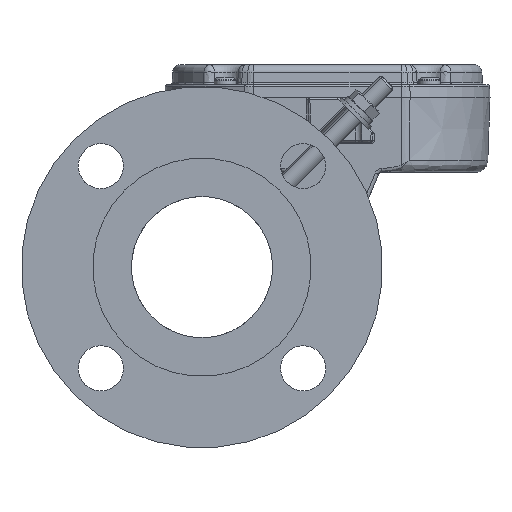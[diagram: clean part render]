
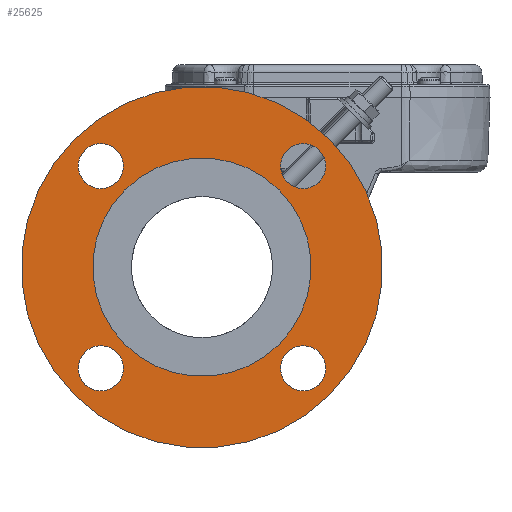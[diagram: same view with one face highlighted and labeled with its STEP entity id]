
A CAD part, front view. The second image highlights one B-rep face of the part: STEP entity #25625.
In plain terms, the highlighted planar face has unit normal (0, -1, 0) as drawn and (-1, 0, 0) by its records, which use the part's own axes.
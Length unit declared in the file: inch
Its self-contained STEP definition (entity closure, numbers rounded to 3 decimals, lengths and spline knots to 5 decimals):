
#807 = DIRECTION ( 'NONE',  ( 0., 0., -1. ) ) ;
#1751 = CARTESIAN_POINT ( 'NONE',  ( 0., -2.375, 0. ) ) ;
#1897 = DIRECTION ( 'NONE',  ( 1., 0., 0. ) ) ;
#2315 = DIRECTION ( 'NONE',  ( 0., 0., -1. ) ) ;
#2569 = DIRECTION ( 'NONE',  ( 0., 0., -1. ) ) ;
#2586 = CARTESIAN_POINT ( 'NONE',  ( 0., 0., -1.8125 ) ) ;
#2778 = CARTESIAN_POINT ( 'NONE',  ( 0., 0., -2. ) ) ;
#2925 = EDGE_CURVE ( 'NONE', #9064, #21138, #23308, .T. ) ;
#3398 = DIRECTION ( 'NONE',  ( 1., 0., 0. ) ) ;
#3523 = EDGE_LOOP ( 'NONE', ( #28972, #30227 ) ) ;
#3618 = EDGE_LOOP ( 'NONE', ( #5724, #18375 ) ) ;
#3978 = VERTEX_POINT ( 'NONE', #27315 ) ;
#4473 = EDGE_CURVE ( 'NONE', #24400, #25697, #11940, .T. ) ;
#4577 = CIRCLE ( 'NONE', #28630, 0.375 ) ;
#5023 = VERTEX_POINT ( 'NONE', #28074 ) ;
#5358 = EDGE_CURVE ( 'NONE', #5023, #22924, #34259, .T. ) ;
#5476 = CIRCLE ( 'NONE', #32348, 0.375 ) ;
#5701 = PLANE ( 'NONE',  #33697 ) ;
#5724 = ORIENTED_EDGE ( 'NONE', *, *, #28757, .T. ) ;
#5728 = AXIS2_PLACEMENT_3D ( 'NONE', #31315, #25427, #11779 ) ;
#5884 = FACE_BOUND ( 'NONE', #3523, .T. ) ;
#5886 = EDGE_LOOP ( 'NONE', ( #27538, #23426 ) ) ;
#6059 = FACE_BOUND ( 'NONE', #28185, .T. ) ;
#6239 = CARTESIAN_POINT ( 'NONE',  ( 0., 2.375, 0.375 ) ) ;
#7168 = DIRECTION ( 'NONE',  ( 1., 0., 0. ) ) ;
#7817 = DIRECTION ( 'NONE',  ( 0., 0., -1. ) ) ;
#8183 = ORIENTED_EDGE ( 'NONE', *, *, #15241, .T. ) ;
#8236 = EDGE_CURVE ( 'NONE', #29658, #3978, #28685, .T. ) ;
#8279 = DIRECTION ( 'NONE',  ( 1., 0., 0. ) ) ;
#8289 = DIRECTION ( 'NONE',  ( 0., 0., -1. ) ) ;
#8448 = EDGE_CURVE ( 'NONE', #21138, #9064, #25855, .T. ) ;
#8459 = DIRECTION ( 'NONE',  ( 1., 0., 0. ) ) ;
#8533 = VERTEX_POINT ( 'NONE', #27996 ) ;
#8570 = CARTESIAN_POINT ( 'NONE',  ( 0., 0., 0. ) ) ;
#9064 = VERTEX_POINT ( 'NONE', #2586 ) ;
#9241 = AXIS2_PLACEMENT_3D ( 'NONE', #18638, #15929, #2315 ) ;
#9395 = DIRECTION ( 'NONE',  ( 0., 0., -1. ) ) ;
#9816 = CARTESIAN_POINT ( 'NONE',  ( 0., 0., -2.75 ) ) ;
#10216 = AXIS2_PLACEMENT_3D ( 'NONE', #23194, #28031, #9395 ) ;
#10665 = CARTESIAN_POINT ( 'NONE',  ( 0., 0., 1.8125 ) ) ;
#10777 = AXIS2_PLACEMENT_3D ( 'NONE', #25437, #8279, #16159 ) ;
#10797 = DIRECTION ( 'NONE',  ( 0., 0., 1. ) ) ;
#11360 = EDGE_CURVE ( 'NONE', #15063, #8533, #4577, .T. ) ;
#11461 = CARTESIAN_POINT ( 'NONE',  ( 0., 0., 0. ) ) ;
#11779 = DIRECTION ( 'NONE',  ( 0., 0., -1. ) ) ;
#11940 = CIRCLE ( 'NONE', #10777, 0.375 ) ;
#12692 = DIRECTION ( 'NONE',  ( 1., 0., 0. ) ) ;
#13670 = DIRECTION ( 'NONE',  ( 1., 0., 0. ) ) ;
#14112 = FACE_OUTER_BOUND ( 'NONE', #30142, .T. ) ;
#14245 = DIRECTION ( 'NONE',  ( 1., 0., 0. ) ) ;
#14429 = CARTESIAN_POINT ( 'NONE',  ( 0., 0., 0. ) ) ;
#14479 = CIRCLE ( 'NONE', #29922, 0.375 ) ;
#14641 = EDGE_CURVE ( 'NONE', #8533, #15063, #21659, .T. ) ;
#14647 = VERTEX_POINT ( 'NONE', #9816 ) ;
#15063 = VERTEX_POINT ( 'NONE', #34405 ) ;
#15206 = CARTESIAN_POINT ( 'NONE',  ( 0., 0., 0. ) ) ;
#15241 = EDGE_CURVE ( 'NONE', #25697, #24400, #5476, .T. ) ;
#15929 = DIRECTION ( 'NONE',  ( 1., 0., 0. ) ) ;
#15987 = CARTESIAN_POINT ( 'NONE',  ( 0., -2.375, 0. ) ) ;
#16159 = DIRECTION ( 'NONE',  ( 0., 0., -1. ) ) ;
#16221 = CARTESIAN_POINT ( 'NONE',  ( 0., 2.375, 0. ) ) ;
#16418 = AXIS2_PLACEMENT_3D ( 'NONE', #11461, #3398, #25296 ) ;
#16593 = CIRCLE ( 'NONE', #5728, 0.375 ) ;
#16968 = FACE_BOUND ( 'NONE', #5886, .T. ) ;
#18375 = ORIENTED_EDGE ( 'NONE', *, *, #27081, .T. ) ;
#18638 = CARTESIAN_POINT ( 'NONE',  ( 0., 0., -2.375 ) ) ;
#18748 = ORIENTED_EDGE ( 'NONE', *, *, #5358, .T. ) ;
#21138 = VERTEX_POINT ( 'NONE', #10665 ) ;
#21318 = CIRCLE ( 'NONE', #25925, 3. ) ;
#21659 = CIRCLE ( 'NONE', #27958, 0.375 ) ;
#21723 = CARTESIAN_POINT ( 'NONE',  ( 0., 0., 0. ) ) ;
#22924 = VERTEX_POINT ( 'NONE', #28318 ) ;
#23194 = CARTESIAN_POINT ( 'NONE',  ( 0., 0., 2.375 ) ) ;
#23308 = CIRCLE ( 'NONE', #16418, 1.8125 ) ;
#23426 = ORIENTED_EDGE ( 'NONE', *, *, #2925, .T. ) ;
#24128 = AXIS2_PLACEMENT_3D ( 'NONE', #14429, #14245, #807 ) ;
#24400 = VERTEX_POINT ( 'NONE', #34232 ) ;
#24700 = CIRCLE ( 'NONE', #9241, 0.375 ) ;
#25057 = DIRECTION ( 'NONE',  ( 0., 0., 1. ) ) ;
#25237 = FACE_BOUND ( 'NONE', #3618, .T. ) ;
#25296 = DIRECTION ( 'NONE',  ( 0., 0., 1. ) ) ;
#25427 = DIRECTION ( 'NONE',  ( 1., 0., 0. ) ) ;
#25437 = CARTESIAN_POINT ( 'NONE',  ( 0., 2.375, 0. ) ) ;
#25625 = ADVANCED_FACE ( 'NONE', ( #14112, #16968, #6059, #5884, #25237, #33446 ), #5701, .T. ) ;
#25697 = VERTEX_POINT ( 'NONE', #6239 ) ;
#25855 = CIRCLE ( 'NONE', #33838, 1.8125 ) ;
#25913 = VERTEX_POINT ( 'NONE', #2778 ) ;
#25925 = AXIS2_PLACEMENT_3D ( 'NONE', #15206, #7168, #26147 ) ;
#26147 = DIRECTION ( 'NONE',  ( 0., 0., -1. ) ) ;
#26532 = ORIENTED_EDGE ( 'NONE', *, *, #8236, .F. ) ;
#27081 = EDGE_CURVE ( 'NONE', #25913, #14647, #16593, .T. ) ;
#27179 = ORIENTED_EDGE ( 'NONE', *, *, #4473, .T. ) ;
#27315 = CARTESIAN_POINT ( 'NONE',  ( 0., 0., 3. ) ) ;
#27538 = ORIENTED_EDGE ( 'NONE', *, *, #8448, .T. ) ;
#27958 = AXIS2_PLACEMENT_3D ( 'NONE', #1751, #12692, #34358 ) ;
#27996 = CARTESIAN_POINT ( 'NONE',  ( 0., -2.375, 0.375 ) ) ;
#28031 = DIRECTION ( 'NONE',  ( 1., 0., 0. ) ) ;
#28074 = CARTESIAN_POINT ( 'NONE',  ( 0., 0., 2.75 ) ) ;
#28185 = EDGE_LOOP ( 'NONE', ( #33732, #18748 ) ) ;
#28318 = CARTESIAN_POINT ( 'NONE',  ( 0., 0., 2. ) ) ;
#28630 = AXIS2_PLACEMENT_3D ( 'NONE', #15987, #8459, #8289 ) ;
#28685 = CIRCLE ( 'NONE', #24128, 3. ) ;
#28757 = EDGE_CURVE ( 'NONE', #14647, #25913, #24700, .T. ) ;
#28972 = ORIENTED_EDGE ( 'NONE', *, *, #11360, .T. ) ;
#29167 = ORIENTED_EDGE ( 'NONE', *, *, #30908, .F. ) ;
#29658 = VERTEX_POINT ( 'NONE', #35433 ) ;
#29922 = AXIS2_PLACEMENT_3D ( 'NONE', #32664, #13670, #2569 ) ;
#30142 = EDGE_LOOP ( 'NONE', ( #26532, #29167 ) ) ;
#30227 = ORIENTED_EDGE ( 'NONE', *, *, #14641, .T. ) ;
#30602 = DIRECTION ( 'NONE',  ( -1., 0., 0. ) ) ;
#30605 = EDGE_LOOP ( 'NONE', ( #27179, #8183 ) ) ;
#30908 = EDGE_CURVE ( 'NONE', #3978, #29658, #21318, .T. ) ;
#31315 = CARTESIAN_POINT ( 'NONE',  ( 0., 0., -2.375 ) ) ;
#31371 = EDGE_CURVE ( 'NONE', #22924, #5023, #14479, .T. ) ;
#32348 = AXIS2_PLACEMENT_3D ( 'NONE', #16221, #1897, #7817 ) ;
#32651 = DIRECTION ( 'NONE',  ( 1., 0., 0. ) ) ;
#32664 = CARTESIAN_POINT ( 'NONE',  ( 0., 0., 2.375 ) ) ;
#33446 = FACE_BOUND ( 'NONE', #30605, .T. ) ;
#33697 = AXIS2_PLACEMENT_3D ( 'NONE', #8570, #30602, #25057 ) ;
#33732 = ORIENTED_EDGE ( 'NONE', *, *, #31371, .T. ) ;
#33838 = AXIS2_PLACEMENT_3D ( 'NONE', #21723, #32651, #10797 ) ;
#34232 = CARTESIAN_POINT ( 'NONE',  ( 0., 2.375, -0.375 ) ) ;
#34259 = CIRCLE ( 'NONE', #10216, 0.375 ) ;
#34358 = DIRECTION ( 'NONE',  ( 0., 0., -1. ) ) ;
#34405 = CARTESIAN_POINT ( 'NONE',  ( 0., -2.375, -0.375 ) ) ;
#35433 = CARTESIAN_POINT ( 'NONE',  ( 0., 0., -3. ) ) ;
